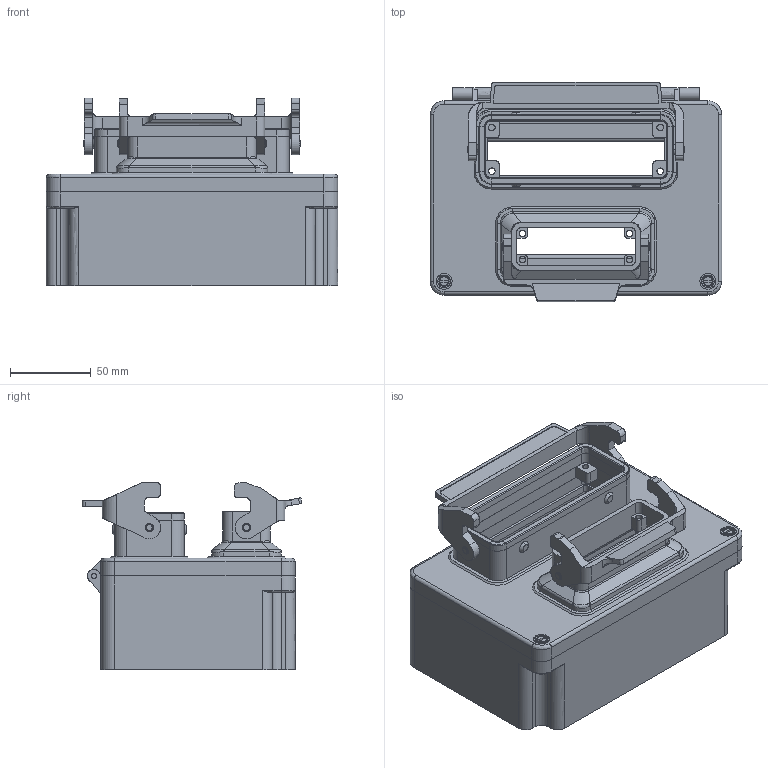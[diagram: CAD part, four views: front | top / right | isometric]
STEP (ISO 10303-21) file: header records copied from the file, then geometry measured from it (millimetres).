
FILE_DESCRIPTION( ( 'STEP AP214' ), '1' );
FILE_NAME( 'C:/Dokumente und Einstellungen/Administrator/Desktop/47 Kabelboxen/G4/8/gr_4_24e_16a-bb.stp', '2006-09-10T20:43:54', ( ' ' ), ( ' ' ), 'XStep 1.0', 'VISICAD', ' ' );
FILE_SCHEMA( ( 'automotive_design' ) );
Length unit declared in the file: millimetre
Products named in the file (1139): 1; 2; 3; 4; 5; 6; 7; 8; 9; 10; 11; 12; 13; 14; 15; 16; 17; 18; 19; 20; 21; 22; 23; 24; 25; 26; 27; 28; 29; 30; 31; 32; 33; 34; 35; 36; 37; 38; 39; 40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
Bounding box: 180 x 135.74 x 115.9 mm (x, y, z)
Surface area: 203266.8 mm2 (no closed solid volume)
Topology: 0 solids, 1139 shells, 1139 faces, 5807 edges, 5807 vertices
Faces by surface type: plane 504, bspline 338, revolution 254, cylinder 43
Entity records: 125308 total; most frequent: CARTESIAN_POINT 57081, DIRECTION 8072, ORIENTED_EDGE 5807, EDGE_CURVE 5807, VERTEX_POINT 5807, LINE 3140, VECTOR 3140, AXIS2_PLACEMENT_3D 2339
